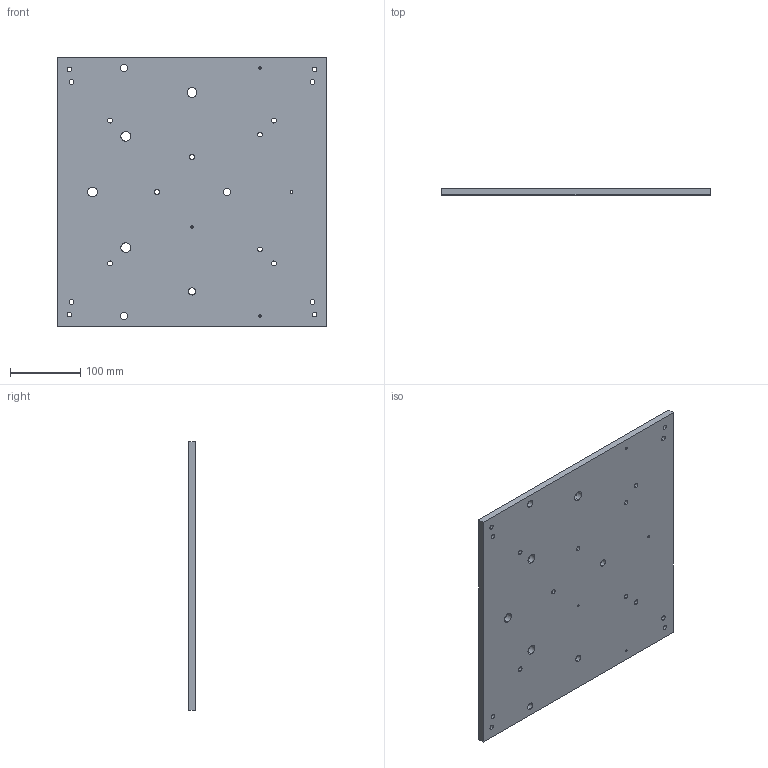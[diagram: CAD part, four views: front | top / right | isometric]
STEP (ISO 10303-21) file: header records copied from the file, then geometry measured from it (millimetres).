
FILE_DESCRIPTION (( 'STEP AP214' ), '1' );
FILE_NAME ('taskboard5_tapped.STEP', '2026-09-30T19:06:37', ( '' ), ( '' ), 'SwSTEP 2.0', 'SolidWorks 2025', '' );
FILE_SCHEMA (( 'AUTOMOTIVE_DESIGN' ));
Length unit declared in the file: millimetre
Products named in the file (1): taskboard5_tapped
Bounding box: 384 x 8.99 x 384 mm (x, y, z)
Volume: 1311543.8 mm3; surface area: 311789.2 mm2
Topology: 1 solids, 1 shells, 62 faces, 180 edges, 120 vertices
Faces by surface type: cylinder 56, plane 6
Entity records: 2251 total; most frequent: DIRECTION 418, CARTESIAN_POINT 363, ORIENTED_EDGE 360, EDGE_CURVE 180, AXIS2_PLACEMENT_3D 175, VERTEX_POINT 120, EDGE_LOOP 118, CIRCLE 112
